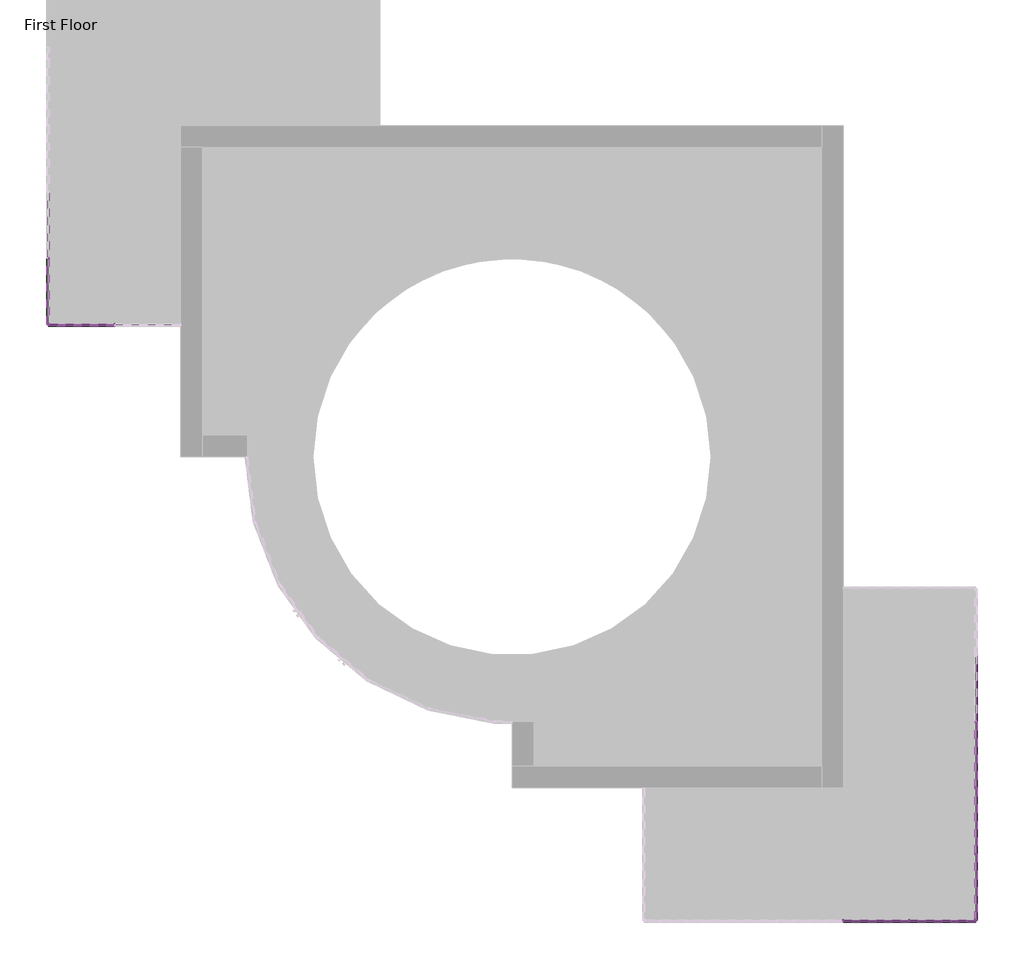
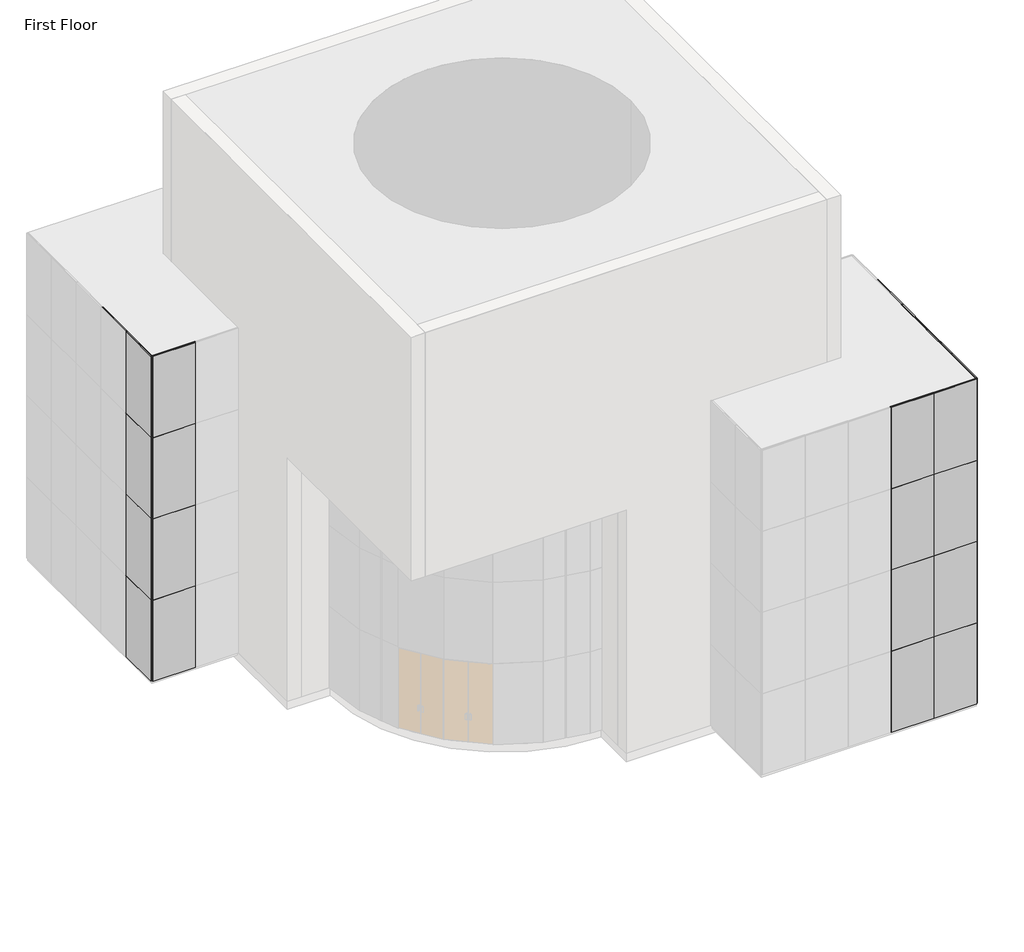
# One storey, part 2 of 4: 84 members, 32 plates.
"""IFC4 building model written with IfcOpenShell, lengths in millimetres."""

import ifcopenshell
import ifcopenshell.guid

model = None  # the IFC model being written
_history = None  # IfcOwnerHistory: only IFC2X3 demands one
_inside = {}  # id of a spatial element -> (the spatial element, [elements in it])
_under = {}  # id of a project, library or spatial element -> (it, [spatial elements below it])
_declared = {}  # id of a project -> (the project, [libraries it declares])
_typed = {}  # id of a type object -> (the type object, [elements of that type])
_made_of = {}  # id of a material, layer set ... -> (it, [elements and type objects made of it])


def new_model(schema):
    """Start an empty IFC model of exactly this schema.

    Asked for "IFC4X3", IfcOpenShell would pick the latest addendum, in which some entities
    have other attributes; the version numbers below select the first issue.
    IFC2X3 requires an IfcOwnerHistory on every rooted entity: one is made here for all.
    """
    global model, _history
    if schema == "IFC4X3":
        model = ifcopenshell.file(schema_version=(4, 3, 0, 0))
    else:
        model = ifcopenshell.file(schema=schema)
    _inside.clear()
    _under.clear()
    _declared.clear()
    _typed.clear()
    _made_of.clear()
    _history = None
    if model.schema == "IFC2X3":
        org = make("IfcOrganization", Name="unknown")
        user = make(
            "IfcPersonAndOrganization",
            ThePerson=make("IfcPerson", FamilyName="unknown"),
            TheOrganization=org,
        )
        app = make(
            "IfcApplication",
            ApplicationDeveloper=org,
            Version="unknown",
            ApplicationFullName="unknown",
            ApplicationIdentifier="unknown",
        )
        _history = make(
            "IfcOwnerHistory",
            OwningUser=user,
            OwningApplication=app,
            ChangeAction="ADDED",
            CreationDate=0,
        )
    return model


def make(cls, **values):
    """One entity of the class cls with the attributes given. An attribute that is None is left unset."""
    return model.create_entity(
        cls, **{name: value for name, value in values.items() if value is not None}
    )


def rooted(cls, **values):
    """An entity with a GlobalId (a new one), such as an element, a storey or a relation."""
    return make(cls, GlobalId=ifcopenshell.guid.new(), OwnerHistory=_history, **values)


def si_unit(unit_type, name, prefix=None):
    """IfcSIUnit, for example si_unit("LENGTHUNIT", "METRE", prefix="MILLI")."""
    return make("IfcSIUnit", UnitType=unit_type, Prefix=prefix, Name=name)


def assignment(units):
    """IfcUnitAssignment: the units of a project."""
    return None if units is None else make("IfcUnitAssignment", Units=units)


def point(xyz):
    """IfcCartesianPoint."""
    return None if xyz is None else make("IfcCartesianPoint", Coordinates=xyz)


def direction(xyz):
    """IfcDirection."""
    return None if xyz is None else make("IfcDirection", DirectionRatios=xyz)


def frame(location, z_axis=None, x_axis=None):
    """IfcAxis2Placement3D, a coordinate frame: its origin and axes. An axis left out is left unset."""
    return make(
        "IfcAxis2Placement3D",
        Location=point(location),
        Axis=direction(z_axis),
        RefDirection=direction(x_axis),
    )


def origin():
    """The frame at (0, 0, 0) with its axes left unset."""
    return frame((0.0, 0.0, 0.0))


def origin_with_axes():
    """The frame at (0, 0, 0) with the z axis (0, 0, 1) and the x axis (1, 0, 0) written out."""
    return frame((0.0, 0.0, 0.0), z_axis=(0.0, 0.0, 1.0), x_axis=(1.0, 0.0, 0.0))


def place(relative_to, where):
    """IfcLocalPlacement: puts the frame where relative to a parent placement (None: the world)."""
    return make(
        "IfcLocalPlacement", PlacementRelTo=relative_to, RelativePlacement=where
    )


def context(
    kind, dimensions, precision=None, world=None, true_north=None, identifier=None
):
    """IfcGeometricRepresentationContext, for example the 3D "Model" context."""
    return make(
        "IfcGeometricRepresentationContext",
        ContextIdentifier=identifier,
        ContextType=kind,
        CoordinateSpaceDimension=dimensions,
        Precision=precision,
        WorldCoordinateSystem=world,
        TrueNorth=true_north,
    )


def project(units=None, contexts=None):
    """IfcProject with its units and contexts."""
    return rooted(
        "IfcProject",
        Name="project",
        RepresentationContexts=contexts,
        UnitsInContext=assignment(units),
    )


def spatial(cls, under=None, at=None, **own):
    """A site, building, storey or space (cls), placed at a placement, below another one or the project."""
    s = rooted(cls, ObjectPlacement=at, **own)
    if under is not None:
        _under.setdefault(under.id(), (under, []))[1].append(s)
    return s


def polyline(points):
    """IfcPolyline through the points."""
    return make("IfcPolyline", Points=[point(p) for p in points])


def outline(outer, holes=None, kind="AREA"):
    """IfcArbitraryClosedProfileDef: a profile drawn as a closed curve; with holes, ...WithVoids."""
    if holes is None:
        return make("IfcArbitraryClosedProfileDef", ProfileType=kind, OuterCurve=outer)
    return make(
        "IfcArbitraryProfileDefWithVoids",
        ProfileType=kind,
        OuterCurve=outer,
        InnerCurves=holes,
    )


def extrude(swept, where, along, depth):
    """IfcExtrudedAreaSolid: the profile swept, set in the frame where, extruded along a direction by depth."""
    return make(
        "IfcExtrudedAreaSolid",
        SweptArea=swept,
        Position=where,
        ExtrudedDirection=direction(along),
        Depth=depth,
    )


def shape(context_of_items, identifier, shape_type, items):
    """IfcShapeRepresentation: the items that make up one representation, for example the "Body"."""
    return make(
        "IfcShapeRepresentation",
        ContextOfItems=context_of_items,
        RepresentationIdentifier=identifier,
        RepresentationType=shape_type,
        Items=items,
    )


def source(mapping_origin, context_of_items, identifier, shape_type, items):
    """IfcRepresentationMap: a shape defined once, which mapped items show again and again."""
    return make(
        "IfcRepresentationMap",
        MappingOrigin=mapping_origin,
        MappedRepresentation=shape(context_of_items, identifier, shape_type, items),
    )


def transform(
    local_origin,
    x_axis=None,
    y_axis=None,
    z_axis=None,
    scale=None,
    scale2=None,
    scale3=None,
    uniform=True,
):
    """IfcCartesianTransformationOperator3D, or its non-uniform kind. x_axis, y_axis, z_axis: its Axis1, 2, 3."""
    if uniform:
        return make(
            "IfcCartesianTransformationOperator3D",
            Axis1=direction(x_axis),
            Axis2=direction(y_axis),
            LocalOrigin=point(local_origin),
            Scale=scale,
            Axis3=direction(z_axis),
        )
    return make(
        "IfcCartesianTransformationOperator3DnonUniform",
        Axis1=direction(x_axis),
        Axis2=direction(y_axis),
        LocalOrigin=point(local_origin),
        Scale=scale,
        Axis3=direction(z_axis),
        Scale2=scale2,
        Scale3=scale3,
    )


def mapped(mapping_source, mapping_target):
    """IfcMappedItem: shows the shape of a source again, moved by a transform."""
    return make(
        "IfcMappedItem", MappingSource=mapping_source, MappingTarget=mapping_target
    )


def made_of(thing, what):
    """Note that an element or type object is made of a material, layer set ...; save() writes the relation."""
    if what is not None:
        _made_of.setdefault(what.id(), (what, []))[1].append(thing)
    return thing


def element(
    cls,
    number,
    at=None,
    inside=None,
    cuts=None,
    type_object=None,
    material=None,
    context=None,
    identifier="Body",
    shape_type=None,
    held_by="IfcProductDefinitionShape",
    body=None,
    shapes=None,
    **own,
):
    """One element of the class cls, such as IfcWall. Its Tag is "e" and its number.

    at: its placement. inside: the storey or other place that contains it. cuts: it is an
    opening in that element (IfcRelVoidsElement). A single representation is given by context,
    identifier, shape_type and body (its items); several are given by shapes. held_by: the class
    of the entity that holds the representations. save() writes the other relations.
    """
    e = rooted(cls, Tag="e%d" % number, ObjectPlacement=at, **own)
    if body is not None:
        shapes = [shape(context, identifier, shape_type, body)]
    if shapes is not None:
        e.Representation = make(held_by, Representations=shapes)
    if inside is not None:
        _inside.setdefault(inside.id(), (inside, []))[1].append(e)
    if cuts is not None:
        rooted(
            "IfcRelVoidsElement", RelatingBuildingElement=cuts, RelatedOpeningElement=e
        )
    if type_object is not None:
        _typed.setdefault(type_object.id(), (type_object, []))[1].append(e)
    return made_of(e, material)


def aggregate(whole, parts):
    """IfcRelAggregates: a whole, such as a stair, and the parts it consists of."""
    return rooted("IfcRelAggregates", RelatingObject=whole, RelatedObjects=parts)


def save(model, path):
    """Write the relations noted so far, then the file.

    IfcRelAggregates (storeys below a building ...), IfcRelContainedInSpatialStructure (elements
    in a storey), IfcRelDefinesByType, IfcRelAssociatesMaterial and IfcRelDeclares: one each for
    every whole, place, type object, material and project.
    """
    for whole, parts in _under.values():
        aggregate(whole, parts)
    for where, things in _inside.values():
        rooted(
            "IfcRelContainedInSpatialStructure",
            RelatedElements=things,
            RelatingStructure=where,
        )
    for kind, things in _typed.values():
        rooted("IfcRelDefinesByType", RelatedObjects=things, RelatingType=kind)
    for what, things in _made_of.values():
        rooted("IfcRelAssociatesMaterial", RelatedObjects=things, RelatingMaterial=what)
    for by, libraries in _declared.values():
        rooted("IfcRelDeclares", RelatingContext=by, RelatedDefinitions=libraries)
    model.write(path)


def member_74941792(model_context):
    return source(origin(), model_context, "Body", "SweptSolid", [
        extrude(outline(polyline([(0.0, 12.7), (0.0, -12.7), (-25.4, -12.7), (-25.4, 12.7), (0.0, 12.7)])), frame((0.0, 0.0, -1485.9), z_axis=(0.0, 0.0, 1.0), x_axis=(1.0, 0.0, 0.0)), (0.0, 0.0, 1.0), 1485.9),
    ])


def member_5e617a80(model_context):
    return source(origin(), model_context, "Body", "SweptSolid", [
        extrude(outline(polyline([(12.7, 12.7), (12.7, -12.7), (-12.7, -12.7), (-12.7, 12.7), (12.7, 12.7)])), frame((0.0, 0.0, -1485.9), z_axis=(0.0, 0.0, 1.0), x_axis=(1.0, 0.0, 0.0)), (0.0, 0.0, 1.0), 1485.9),
    ])


def member_9fd3d903(model_context):
    return source(origin(), model_context, "Body", "SweptSolid", [
        extrude(outline(polyline([(12.7, 12.7), (12.7, -12.7), (-12.7, -12.7), (-12.7, 12.7), (12.7, 12.7)])), frame((0.0, 0.0, -1498.6), z_axis=(0.0, 0.0, 1.0), x_axis=(1.0, 0.0, 0.0)), (0.0, 0.0, 1.0), 1498.6),
    ])


def member_cbdb9076(model_context):
    return source(origin(), model_context, "Body", "SweptSolid", [
        extrude(outline(polyline([(12.7, 12.7), (12.7, -12.7), (-12.7, -12.7), (-12.7, 12.7), (12.7, 12.7)])), frame((0.0, 0.0, -3048.0), z_axis=(0.0, 0.0, 1.0), x_axis=(1.0, 0.0, 0.0)), (0.0, 0.0, 1.0), 3048.0),
    ])


def member_6604d1e0(model_context):
    return source(origin(), model_context, "Body", "SweptSolid", [
        extrude(outline(polyline([(0.0, 12.7), (0.0, -12.7), (-25.4, -12.7), (-25.4, 12.7), (0.0, 12.7)])), frame((0.0, 0.0, -1498.6), z_axis=(0.0, 0.0, 1.0), x_axis=(1.0, 0.0, 0.0)), (0.0, 0.0, 1.0), 1498.6),
    ])


def member_7e523723(model_context):
    return source(origin(), model_context, "Body", "SweptSolid", [
        extrude(outline(polyline([(0.0, 12.7), (0.0, -12.7), (-25.4, -12.7), (-25.4, 12.7), (0.0, 12.7)])), frame((0.0, 0.0, -3048.0), z_axis=(0.0, 0.0, 1.0), x_axis=(1.0, 0.0, 0.0)), (0.0, 0.0, 1.0), 3048.0),
    ])


def system_panel_glazed_9c75bc08(model_context):
    return source(origin(), model_context, "Body", "SweptSolid", [
        extrude(outline(polyline([(762.0, -44.45), (-762.0, -44.45), (-762.0, -19.05), (762.0, -19.05), (762.0, -44.45)])), origin_with_axes(), (0.0, 0.0, 1.0), 3048.0),
    ])


model = new_model("IFC4")

# Units and contexts
model_context = context("Model", 3, world=origin())
ifc_project = project(units=[si_unit("LENGTHUNIT", "METRE", prefix="MILLI")], contexts=[model_context])

# Site, building, storey
site = spatial("IfcSite", under=ifc_project)
building = spatial("IfcBuilding", under=site)
storey = spatial("IfcBuildingStorey", under=building, Name="First Floor", Elevation=0.0)

# Members
placement = place(None, origin())
member_shape = member_74941792(model_context)
element("IfcMember", 1, ObjectType="Rectangular Mullion : 1\" Square", at=placement, inside=storey, context=model_context, shape_type="MappedRepresentation", body=[
    mapped(member_shape, transform((-17553.263284, 9678.4261432, 0.0), x_axis=(0.0, 0.0, -1.0), y_axis=(-1.0, 0.0, 0.0), z_axis=(0.0, 1.0, 0.0))),
])
element("IfcMember", 2, ObjectType="Rectangular Mullion : 1\" Square", at=placement, inside=storey, context=model_context, shape_type="MappedRepresentation", body=[
    mapped(member_shape, transform((-17527.863284, 8167.1261432, 0.0), x_axis=(0.0, 0.0, -1.0), y_axis=(0.0, -1.0, 0.0), z_axis=(-1.0, 0.0, 0.0))),
])
element("IfcMember", 3, ObjectType="Rectangular Mullion : 1\" Square", at=placement, inside=storey, context=model_context, shape_type="MappedRepresentation", body=[
    mapped(member_shape, transform((-16016.563284, 8167.1261432, 0.0), x_axis=(0.0, 0.0, -1.0), y_axis=(0.0, -1.0, 0.0), z_axis=(-1.0, 0.0, 0.0))),
])
element("IfcMember", 4, ObjectType="Rectangular Mullion : 1\" Square", at=placement, inside=storey, context=model_context, shape_type="MappedRepresentation", body=[
    mapped(member_shape, transform((2271.436716, -5548.8738568, 0.0), x_axis=(0.0, 0.0, -1.0), y_axis=(0.0, -1.0, 0.0), z_axis=(-1.0, 0.0, 0.0))),
])
element("IfcMember", 5, ObjectType="Rectangular Mullion : 1\" Square", at=placement, inside=storey, context=model_context, shape_type="MappedRepresentation", body=[
    mapped(member_shape, transform((3782.736716, -5523.4738568, 0.0), x_axis=(0.0, 0.0, -1.0), y_axis=(1.0, 0.0, 0.0), z_axis=(0.0, -1.0, 0.0))),
])
member_2_shape = member_5e617a80(model_context)
element("IfcMember", 6, ObjectType="Rectangular Mullion : 1\" Square", at=placement, inside=storey, context=model_context, shape_type="MappedRepresentation", body=[
    mapped(member_2_shape, transform((-17553.263284, 8192.5261432, 3048.0), x_axis=(0.0, 0.0, 1.0), y_axis=(-1.0, 0.0, 0.0), z_axis=(0.0, -1.0, 0.0))),
])
element("IfcMember", 7, ObjectType="Rectangular Mullion : 1\" Square", at=placement, inside=storey, context=model_context, shape_type="MappedRepresentation", body=[
    mapped(member_2_shape, transform((-17553.263284, 8192.5261432, 6096.0), x_axis=(0.0, 0.0, 1.0), y_axis=(-1.0, 0.0, 0.0), z_axis=(0.0, -1.0, 0.0))),
])
element("IfcMember", 8, ObjectType="Rectangular Mullion : 1\" Square", at=placement, inside=storey, context=model_context, shape_type="MappedRepresentation", body=[
    mapped(member_2_shape, transform((-17553.263284, 8192.5261432, 9144.0), x_axis=(0.0, 0.0, 1.0), y_axis=(-1.0, 0.0, 0.0), z_axis=(0.0, -1.0, 0.0))),
])
element("IfcMember", 9, ObjectType="Rectangular Mullion : 1\" Square", at=placement, inside=storey, context=model_context, shape_type="MappedRepresentation", body=[
    mapped(member_2_shape, transform((-16041.963284, 8167.1261432, 3048.0), x_axis=(0.0, 0.0, 1.0), y_axis=(0.0, -1.0, 0.0), z_axis=(1.0, 0.0, 0.0))),
])
element("IfcMember", 10, ObjectType="Rectangular Mullion : 1\" Square", at=placement, inside=storey, context=model_context, shape_type="MappedRepresentation", body=[
    mapped(member_2_shape, transform((-16041.963284, 8167.1261432, 6096.0), x_axis=(0.0, 0.0, 1.0), y_axis=(0.0, -1.0, 0.0), z_axis=(1.0, 0.0, 0.0))),
])
element("IfcMember", 11, ObjectType="Rectangular Mullion : 1\" Square", at=placement, inside=storey, context=model_context, shape_type="MappedRepresentation", body=[
    mapped(member_2_shape, transform((-16041.963284, 8167.1261432, 9144.0), x_axis=(0.0, 0.0, 1.0), y_axis=(0.0, -1.0, 0.0), z_axis=(1.0, 0.0, 0.0))),
])
element("IfcMember", 12, ObjectType="Rectangular Mullion : 1\" Square", at=placement, inside=storey, context=model_context, shape_type="MappedRepresentation", body=[
    mapped(member_2_shape, transform((3757.336716, -5548.8738568, 9144.0), x_axis=(0.0, 0.0, 1.0), y_axis=(0.0, -1.0, 0.0), z_axis=(1.0, 0.0, 0.0))),
])
element("IfcMember", 13, ObjectType="Rectangular Mullion : 1\" Square", at=placement, inside=storey, context=model_context, shape_type="MappedRepresentation", body=[
    mapped(member_2_shape, transform((3757.336716, -5548.8738568, 3048.0), x_axis=(0.0, 0.0, 1.0), y_axis=(0.0, -1.0, 0.0), z_axis=(1.0, 0.0, 0.0))),
])
element("IfcMember", 14, ObjectType="Rectangular Mullion : 1\" Square", at=placement, inside=storey, context=model_context, shape_type="MappedRepresentation", body=[
    mapped(member_2_shape, transform((3757.336716, -5548.8738568, 6096.0), x_axis=(0.0, 0.0, 1.0), y_axis=(0.0, -1.0, 0.0), z_axis=(1.0, 0.0, 0.0))),
])
element("IfcMember", 15, ObjectType="Rectangular Mullion : 1\" Square", at=placement, inside=storey, context=model_context, shape_type="MappedRepresentation", body=[
    mapped(member_2_shape, transform((3782.736716, -4037.5738568, 3048.0), x_axis=(0.0, 0.0, 1.0), y_axis=(1.0, 0.0, 0.0), z_axis=(0.0, 1.0, 0.0))),
])
element("IfcMember", 16, ObjectType="Rectangular Mullion : 1\" Square", at=placement, inside=storey, context=model_context, shape_type="MappedRepresentation", body=[
    mapped(member_2_shape, transform((3782.736716, -4037.5738568, 6096.0), x_axis=(0.0, 0.0, 1.0), y_axis=(1.0, 0.0, 0.0), z_axis=(0.0, 1.0, 0.0))),
])
element("IfcMember", 17, ObjectType="Rectangular Mullion : 1\" Square", at=placement, inside=storey, context=model_context, shape_type="MappedRepresentation", body=[
    mapped(member_2_shape, transform((3782.736716, -4037.5738568, 9144.0), x_axis=(0.0, 0.0, 1.0), y_axis=(1.0, 0.0, 0.0), z_axis=(0.0, 1.0, 0.0))),
])
member_3_shape = member_9fd3d903(model_context)
element("IfcMember", 18, ObjectType="Rectangular Mullion : 1\" Square", at=placement, inside=storey, context=model_context, shape_type="MappedRepresentation", body=[
    mapped(member_3_shape, transform((-17553.263284, 9703.8261432, 6096.0), x_axis=(0.0, 0.0, 1.0), y_axis=(-1.0, 0.0, 0.0), z_axis=(0.0, -1.0, 0.0))),
])
element("IfcMember", 19, ObjectType="Rectangular Mullion : 1\" Square", at=placement, inside=storey, context=model_context, shape_type="MappedRepresentation", body=[
    mapped(member_3_shape, transform((-17553.263284, 9703.8261432, 9144.0), x_axis=(0.0, 0.0, 1.0), y_axis=(-1.0, 0.0, 0.0), z_axis=(0.0, -1.0, 0.0))),
])
element("IfcMember", 20, ObjectType="Rectangular Mullion : 1\" Square", at=placement, inside=storey, context=model_context, shape_type="MappedRepresentation", body=[
    mapped(member_3_shape, transform((-17553.263284, 9703.8261432, 3048.0), x_axis=(0.0, 0.0, 1.0), y_axis=(-1.0, 0.0, 0.0), z_axis=(0.0, -1.0, 0.0))),
])
element("IfcMember", 21, ObjectType="Rectangular Mullion : 1\" Square", at=placement, inside=storey, context=model_context, shape_type="MappedRepresentation", body=[
    mapped(member_3_shape, transform((2246.036716, -5548.8738568, 9144.0), x_axis=(0.0, 0.0, 1.0), y_axis=(0.0, -1.0, 0.0), z_axis=(1.0, 0.0, 0.0))),
])
element("IfcMember", 22, ObjectType="Rectangular Mullion : 1\" Square", at=placement, inside=storey, context=model_context, shape_type="MappedRepresentation", body=[
    mapped(member_3_shape, transform((2246.036716, -5548.8738568, 3048.0), x_axis=(0.0, 0.0, 1.0), y_axis=(0.0, -1.0, 0.0), z_axis=(1.0, 0.0, 0.0))),
])
element("IfcMember", 23, ObjectType="Rectangular Mullion : 1\" Square", at=placement, inside=storey, context=model_context, shape_type="MappedRepresentation", body=[
    mapped(member_3_shape, transform((2246.036716, -5548.8738568, 6096.0), x_axis=(0.0, 0.0, 1.0), y_axis=(0.0, -1.0, 0.0), z_axis=(1.0, 0.0, 0.0))),
])
element("IfcMember", 24, ObjectType="Rectangular Mullion : 1\" Square", at=placement, inside=storey, context=model_context, shape_type="MappedRepresentation", body=[
    mapped(member_3_shape, transform((3782.736716, -2513.5738568, 3048.0), x_axis=(0.0, 0.0, 1.0), y_axis=(1.0, 0.0, 0.0), z_axis=(0.0, 1.0, 0.0))),
])
element("IfcMember", 25, ObjectType="Rectangular Mullion : 1\" Square", at=placement, inside=storey, context=model_context, shape_type="MappedRepresentation", body=[
    mapped(member_3_shape, transform((3782.736716, -2513.5738568, 9144.0), x_axis=(0.0, 0.0, 1.0), y_axis=(1.0, 0.0, 0.0), z_axis=(0.0, 1.0, 0.0))),
])
element("IfcMember", 26, ObjectType="Rectangular Mullion : 1\" Square", at=placement, inside=storey, context=model_context, shape_type="MappedRepresentation", body=[
    mapped(member_3_shape, transform((3782.736716, -989.5738568, 3048.0), x_axis=(0.0, 0.0, 1.0), y_axis=(1.0, 0.0, 0.0), z_axis=(0.0, 1.0, 0.0))),
])
element("IfcMember", 27, ObjectType="Rectangular Mullion : 1\" Square", at=placement, inside=storey, context=model_context, shape_type="MappedRepresentation", body=[
    mapped(member_3_shape, transform((3782.736716, -2513.5738568, 6096.0), x_axis=(0.0, 0.0, 1.0), y_axis=(1.0, 0.0, 0.0), z_axis=(0.0, 1.0, 0.0))),
])
element("IfcMember", 28, ObjectType="Rectangular Mullion : 1\" Square", at=placement, inside=storey, context=model_context, shape_type="MappedRepresentation", body=[
    mapped(member_3_shape, transform((3782.736716, -989.5738568, 6096.0), x_axis=(0.0, 0.0, 1.0), y_axis=(1.0, 0.0, 0.0), z_axis=(0.0, 1.0, 0.0))),
])
element("IfcMember", 29, ObjectType="Rectangular Mullion : 1\" Square", at=placement, inside=storey, context=model_context, shape_type="MappedRepresentation", body=[
    mapped(member_3_shape, transform((3782.736716, -989.5738568, 9144.0), x_axis=(0.0, 0.0, 1.0), y_axis=(1.0, 0.0, 0.0), z_axis=(0.0, 1.0, 0.0))),
])
member_4_shape = member_cbdb9076(model_context)
element("IfcMember", 30, ObjectType="Rectangular Mullion : 1\" Square", at=placement, inside=storey, context=model_context, shape_type="MappedRepresentation", body=[
    mapped(member_4_shape, transform((-17553.263284, 9691.1261432, 0.0), x_axis=(0.0, -1.0, 0.0), y_axis=(-1.0, 0.0, 0.0), z_axis=(0.0, 0.0, -1.0))),
])
element("IfcMember", 31, ObjectType="Rectangular Mullion : 1\" Square", at=placement, inside=storey, context=model_context, shape_type="MappedRepresentation", body=[
    mapped(member_4_shape, transform((-16029.263284, 8167.1261432, 0.0), x_axis=(1.0, 0.0, 0.0), y_axis=(0.0, -1.0, 0.0), z_axis=(0.0, 0.0, -1.0))),
])
element("IfcMember", 32, ObjectType="Rectangular Mullion : 1\" Square", at=placement, inside=storey, context=model_context, shape_type="MappedRepresentation", body=[
    mapped(member_4_shape, transform((734.736716, -5548.8738568, 0.0), x_axis=(1.0, 0.0, 0.0), y_axis=(0.0, -1.0, 0.0), z_axis=(0.0, 0.0, -1.0))),
])
element("IfcMember", 33, ObjectType="Rectangular Mullion : 1\" Square", at=placement, inside=storey, context=model_context, shape_type="MappedRepresentation", body=[
    mapped(member_4_shape, transform((2258.736716, -5548.8738568, 0.0), x_axis=(1.0, 0.0, 0.0), y_axis=(0.0, -1.0, 0.0), z_axis=(0.0, 0.0, -1.0))),
])
element("IfcMember", 34, ObjectType="Rectangular Mullion : 1\" Square", at=placement, inside=storey, context=model_context, shape_type="MappedRepresentation", body=[
    mapped(member_4_shape, transform((3782.736716, -2500.8738568, 0.0), x_axis=(0.0, 1.0, 0.0), y_axis=(1.0, 0.0, 0.0), z_axis=(0.0, 0.0, -1.0))),
])
element("IfcMember", 35, ObjectType="Rectangular Mullion : 1\" Square", at=placement, inside=storey, context=model_context, shape_type="MappedRepresentation", body=[
    mapped(member_4_shape, transform((3782.736716, -976.8738568, 0.0), x_axis=(0.0, 1.0, 0.0), y_axis=(1.0, 0.0, 0.0), z_axis=(0.0, 0.0, -1.0))),
])
element("IfcMember", 36, ObjectType="Rectangular Mullion : 1\" Square", at=placement, inside=storey, context=model_context, shape_type="MappedRepresentation", body=[
    mapped(member_4_shape, transform((3782.736716, -4024.8738568, 0.0), x_axis=(0.0, 1.0, 0.0), y_axis=(1.0, 0.0, 0.0), z_axis=(0.0, 0.0, -1.0))),
])
member_5_shape = member_6604d1e0(model_context)
element("IfcMember", 37, ObjectType="Rectangular Mullion : 1\" Square", at=placement, inside=storey, context=model_context, shape_type="MappedRepresentation", body=[
    mapped(member_5_shape, transform((-17553.263284, 9703.8261432, 12192.0), x_axis=(0.0, 0.0, 1.0), y_axis=(-1.0, 0.0, 0.0), z_axis=(0.0, -1.0, 0.0))),
])
element("IfcMember", 38, ObjectType="Rectangular Mullion : 1\" Square", at=placement, inside=storey, context=model_context, shape_type="MappedRepresentation", body=[
    mapped(member_5_shape, transform((2246.036716, -5548.8738568, 12192.0), x_axis=(0.0, 0.0, 1.0), y_axis=(0.0, -1.0, 0.0), z_axis=(1.0, 0.0, 0.0))),
])
element("IfcMember", 39, ObjectType="Rectangular Mullion : 1\" Square", at=placement, inside=storey, context=model_context, shape_type="MappedRepresentation", body=[
    mapped(member_5_shape, transform((3782.736716, -2513.5738568, 12192.0), x_axis=(0.0, 0.0, 1.0), y_axis=(1.0, 0.0, 0.0), z_axis=(0.0, 1.0, 0.0))),
])
element("IfcMember", 40, ObjectType="Rectangular Mullion : 1\" Square", at=placement, inside=storey, context=model_context, shape_type="MappedRepresentation", body=[
    mapped(member_5_shape, transform((3782.736716, -989.5738568, 12192.0), x_axis=(0.0, 0.0, 1.0), y_axis=(1.0, 0.0, 0.0), z_axis=(0.0, 1.0, 0.0))),
])
element("IfcMember", 41, ObjectType="Rectangular Mullion : 1\" Square", at=placement, inside=storey, context=model_context, shape_type="MappedRepresentation", body=[
    mapped(member_4_shape, transform((-17553.263284, 9691.1261432, 3048.0), x_axis=(0.0, -1.0, 0.0), y_axis=(-1.0, 0.0, 0.0), z_axis=(0.0, 0.0, -1.0))),
])
element("IfcMember", 42, ObjectType="Rectangular Mullion : 1\" Square", at=placement, inside=storey, context=model_context, shape_type="MappedRepresentation", body=[
    mapped(member_4_shape, transform((-17553.263284, 9691.1261432, 6096.0), x_axis=(0.0, -1.0, 0.0), y_axis=(-1.0, 0.0, 0.0), z_axis=(0.0, 0.0, -1.0))),
])
element("IfcMember", 43, ObjectType="Rectangular Mullion : 1\" Square", at=placement, inside=storey, context=model_context, shape_type="MappedRepresentation", body=[
    mapped(member_4_shape, transform((-16029.263284, 8167.1261432, 3048.0), x_axis=(1.0, 0.0, 0.0), y_axis=(0.0, -1.0, 0.0), z_axis=(0.0, 0.0, -1.0))),
])
element("IfcMember", 44, ObjectType="Rectangular Mullion : 1\" Square", at=placement, inside=storey, context=model_context, shape_type="MappedRepresentation", body=[
    mapped(member_4_shape, transform((-16029.263284, 8167.1261432, 6096.0), x_axis=(1.0, 0.0, 0.0), y_axis=(0.0, -1.0, 0.0), z_axis=(0.0, 0.0, -1.0))),
])
element("IfcMember", 45, ObjectType="Rectangular Mullion : 1\" Square", at=placement, inside=storey, context=model_context, shape_type="MappedRepresentation", body=[
    mapped(member_4_shape, transform((734.736716, -5548.8738568, 3048.0), x_axis=(1.0, 0.0, 0.0), y_axis=(0.0, -1.0, 0.0), z_axis=(0.0, 0.0, -1.0))),
])
element("IfcMember", 46, ObjectType="Rectangular Mullion : 1\" Square", at=placement, inside=storey, context=model_context, shape_type="MappedRepresentation", body=[
    mapped(member_4_shape, transform((734.736716, -5548.8738568, 6096.0), x_axis=(1.0, 0.0, 0.0), y_axis=(0.0, -1.0, 0.0), z_axis=(0.0, 0.0, -1.0))),
])
element("IfcMember", 47, ObjectType="Rectangular Mullion : 1\" Square", at=placement, inside=storey, context=model_context, shape_type="MappedRepresentation", body=[
    mapped(member_4_shape, transform((2258.736716, -5548.8738568, 3048.0), x_axis=(1.0, 0.0, 0.0), y_axis=(0.0, -1.0, 0.0), z_axis=(0.0, 0.0, -1.0))),
])
element("IfcMember", 48, ObjectType="Rectangular Mullion : 1\" Square", at=placement, inside=storey, context=model_context, shape_type="MappedRepresentation", body=[
    mapped(member_4_shape, transform((2258.736716, -5548.8738568, 6096.0), x_axis=(1.0, 0.0, 0.0), y_axis=(0.0, -1.0, 0.0), z_axis=(0.0, 0.0, -1.0))),
])
element("IfcMember", 49, ObjectType="Rectangular Mullion : 1\" Square", at=placement, inside=storey, context=model_context, shape_type="MappedRepresentation", body=[
    mapped(member_4_shape, transform((3782.736716, -2500.8738568, 6096.0), x_axis=(0.0, 1.0, 0.0), y_axis=(1.0, 0.0, 0.0), z_axis=(0.0, 0.0, -1.0))),
])
element("IfcMember", 50, ObjectType="Rectangular Mullion : 1\" Square", at=placement, inside=storey, context=model_context, shape_type="MappedRepresentation", body=[
    mapped(member_4_shape, transform((3782.736716, -976.8738568, 3048.0), x_axis=(0.0, 1.0, 0.0), y_axis=(1.0, 0.0, 0.0), z_axis=(0.0, 0.0, -1.0))),
])
element("IfcMember", 51, ObjectType="Rectangular Mullion : 1\" Square", at=placement, inside=storey, context=model_context, shape_type="MappedRepresentation", body=[
    mapped(member_4_shape, transform((3782.736716, -976.8738568, 6096.0), x_axis=(0.0, 1.0, 0.0), y_axis=(1.0, 0.0, 0.0), z_axis=(0.0, 0.0, -1.0))),
])
element("IfcMember", 52, ObjectType="Rectangular Mullion : 1\" Square", at=placement, inside=storey, context=model_context, shape_type="MappedRepresentation", body=[
    mapped(member_4_shape, transform((3782.736716, -4024.8738568, 3048.0), x_axis=(0.0, 1.0, 0.0), y_axis=(1.0, 0.0, 0.0), z_axis=(0.0, 0.0, -1.0))),
])
element("IfcMember", 53, ObjectType="Rectangular Mullion : 1\" Square", at=placement, inside=storey, context=model_context, shape_type="MappedRepresentation", body=[
    mapped(member_4_shape, transform((3782.736716, -4024.8738568, 6096.0), x_axis=(0.0, 1.0, 0.0), y_axis=(1.0, 0.0, 0.0), z_axis=(0.0, 0.0, -1.0))),
])
element("IfcMember", 54, ObjectType="Rectangular Mullion : 1\" Square", at=placement, inside=storey, context=model_context, shape_type="MappedRepresentation", body=[
    mapped(member_4_shape, transform((3782.736716, -2500.8738568, 3048.0), x_axis=(0.0, 1.0, 0.0), y_axis=(1.0, 0.0, 0.0), z_axis=(0.0, 0.0, -1.0))),
])
element("IfcMember", 55, ObjectType="Rectangular Mullion : 1\" Square", at=placement, inside=storey, context=model_context, shape_type="MappedRepresentation", body=[
    mapped(member_4_shape, transform((-17553.263284, 9691.1261432, 9144.0), x_axis=(0.0, -1.0, 0.0), y_axis=(-1.0, 0.0, 0.0), z_axis=(0.0, 0.0, -1.0))),
])
element("IfcMember", 56, ObjectType="Rectangular Mullion : 1\" Square", at=placement, inside=storey, context=model_context, shape_type="MappedRepresentation", body=[
    mapped(member_4_shape, transform((-16029.263284, 8167.1261432, 9144.0), x_axis=(1.0, 0.0, 0.0), y_axis=(0.0, -1.0, 0.0), z_axis=(0.0, 0.0, -1.0))),
])
element("IfcMember", 57, ObjectType="Rectangular Mullion : 1\" Square", at=placement, inside=storey, context=model_context, shape_type="MappedRepresentation", body=[
    mapped(member_4_shape, transform((734.736716, -5548.8738568, 9144.0), x_axis=(1.0, 0.0, 0.0), y_axis=(0.0, -1.0, 0.0), z_axis=(0.0, 0.0, -1.0))),
])
element("IfcMember", 58, ObjectType="Rectangular Mullion : 1\" Square", at=placement, inside=storey, context=model_context, shape_type="MappedRepresentation", body=[
    mapped(member_4_shape, transform((2258.736716, -5548.8738568, 9144.0), x_axis=(1.0, 0.0, 0.0), y_axis=(0.0, -1.0, 0.0), z_axis=(0.0, 0.0, -1.0))),
])
element("IfcMember", 59, ObjectType="Rectangular Mullion : 1\" Square", at=placement, inside=storey, context=model_context, shape_type="MappedRepresentation", body=[
    mapped(member_4_shape, transform((3782.736716, -2500.8738568, 9144.0), x_axis=(0.0, 1.0, 0.0), y_axis=(1.0, 0.0, 0.0), z_axis=(0.0, 0.0, -1.0))),
])
element("IfcMember", 60, ObjectType="Rectangular Mullion : 1\" Square", at=placement, inside=storey, context=model_context, shape_type="MappedRepresentation", body=[
    mapped(member_4_shape, transform((3782.736716, -976.8738568, 9144.0), x_axis=(0.0, 1.0, 0.0), y_axis=(1.0, 0.0, 0.0), z_axis=(0.0, 0.0, -1.0))),
])
element("IfcMember", 61, ObjectType="Rectangular Mullion : 1\" Square", at=placement, inside=storey, context=model_context, shape_type="MappedRepresentation", body=[
    mapped(member_4_shape, transform((3782.736716, -4024.8738568, 9144.0), x_axis=(0.0, 1.0, 0.0), y_axis=(1.0, 0.0, 0.0), z_axis=(0.0, 0.0, -1.0))),
])
element("IfcMember", 62, ObjectType="Rectangular Mullion : 1\" Square", at=placement, inside=storey, context=model_context, shape_type="MappedRepresentation", body=[
    mapped(member_5_shape, transform((3782.736716, -4012.1738568, 0.0), x_axis=(0.0, 0.0, -1.0), y_axis=(1.0, 0.0, 0.0), z_axis=(0.0, -1.0, 0.0))),
])
element("IfcMember", 63, ObjectType="Rectangular Mullion : 1\" Square", at=placement, inside=storey, context=model_context, shape_type="MappedRepresentation", body=[
    mapped(member_5_shape, transform((3782.736716, -2488.1738568, 0.0), x_axis=(0.0, 0.0, -1.0), y_axis=(1.0, 0.0, 0.0), z_axis=(0.0, -1.0, 0.0))),
])
element("IfcMember", 64, ObjectType="Rectangular Mullion : 1\" Square", at=placement, inside=storey, context=model_context, shape_type="MappedRepresentation", body=[
    mapped(member_5_shape, transform((3782.736716, -964.1738568, 0.0), x_axis=(0.0, 0.0, -1.0), y_axis=(1.0, 0.0, 0.0), z_axis=(0.0, -1.0, 0.0))),
])
element("IfcMember", 65, ObjectType="Rectangular Mullion : 1\" Square", at=placement, inside=storey, context=model_context, shape_type="MappedRepresentation", body=[
    mapped(member_shape, transform((-17553.263284, 8192.5261432, 12192.0), x_axis=(0.0, 0.0, 1.0), y_axis=(-1.0, 0.0, 0.0), z_axis=(0.0, -1.0, 0.0))),
])
element("IfcMember", 66, ObjectType="Rectangular Mullion : 1\" Square", at=placement, inside=storey, context=model_context, shape_type="MappedRepresentation", body=[
    mapped(member_shape, transform((-16041.963284, 8167.1261432, 12192.0), x_axis=(0.0, 0.0, 1.0), y_axis=(0.0, -1.0, 0.0), z_axis=(1.0, 0.0, 0.0))),
])
element("IfcMember", 67, ObjectType="Rectangular Mullion : 1\" Square", at=placement, inside=storey, context=model_context, shape_type="MappedRepresentation", body=[
    mapped(member_shape, transform((3757.336716, -5548.8738568, 12192.0), x_axis=(0.0, 0.0, 1.0), y_axis=(0.0, -1.0, 0.0), z_axis=(1.0, 0.0, 0.0))),
])
element("IfcMember", 68, ObjectType="Rectangular Mullion : 1\" Square", at=placement, inside=storey, context=model_context, shape_type="MappedRepresentation", body=[
    mapped(member_shape, transform((3782.736716, -4037.5738568, 12192.0), x_axis=(0.0, 0.0, 1.0), y_axis=(1.0, 0.0, 0.0), z_axis=(0.0, 1.0, 0.0))),
])
member_6_shape = member_7e523723(model_context)
element("IfcMember", 69, ObjectType="Rectangular Mullion : 1\" Square", at=placement, inside=storey, context=model_context, shape_type="MappedRepresentation", body=[
    mapped(member_6_shape, transform((-17553.263284, 8167.1261432, 0.0), x_axis=(0.0, -1.0, 0.0), y_axis=(-1.0, 0.0, 0.0), z_axis=(0.0, 0.0, -1.0))),
])
element("IfcMember", 70, ObjectType="Rectangular Mullion : 1\" Square", at=placement, inside=storey, context=model_context, shape_type="MappedRepresentation", body=[
    mapped(member_6_shape, transform((3782.736716, -5548.8738568, 0.0), x_axis=(1.0, 0.0, 0.0), y_axis=(0.0, -1.0, 0.0), z_axis=(0.0, 0.0, -1.0))),
])
element("IfcMember", 71, ObjectType="Rectangular Mullion : 1\" Square", at=placement, inside=storey, context=model_context, shape_type="MappedRepresentation", body=[
    mapped(member_6_shape, transform((-17553.263284, 8167.1261432, 3048.0), x_axis=(-1.0, 0.0, 0.0), y_axis=(0.0, -1.0, 0.0), z_axis=(0.0, 0.0, 1.0))),
])
element("IfcMember", 72, ObjectType="Rectangular Mullion : 1\" Square", at=placement, inside=storey, context=model_context, shape_type="MappedRepresentation", body=[
    mapped(member_6_shape, transform((3782.736716, -5548.8738568, 3048.0), x_axis=(0.0, -1.0, 0.0), y_axis=(1.0, 0.0, 0.0), z_axis=(0.0, 0.0, 1.0))),
])
element("IfcMember", 73, ObjectType="Rectangular Mullion : 1\" Square", at=placement, inside=storey, context=model_context, shape_type="MappedRepresentation", body=[
    mapped(member_6_shape, transform((-17553.263284, 8167.1261432, 6096.0), x_axis=(-1.0, 0.0, 0.0), y_axis=(0.0, -1.0, 0.0), z_axis=(0.0, 0.0, 1.0))),
])
element("IfcMember", 74, ObjectType="Rectangular Mullion : 1\" Square", at=placement, inside=storey, context=model_context, shape_type="MappedRepresentation", body=[
    mapped(member_6_shape, transform((-17553.263284, 8167.1261432, 9144.0), x_axis=(-1.0, 0.0, 0.0), y_axis=(0.0, -1.0, 0.0), z_axis=(0.0, 0.0, 1.0))),
])
element("IfcMember", 75, ObjectType="Rectangular Mullion : 1\" Square", at=placement, inside=storey, context=model_context, shape_type="MappedRepresentation", body=[
    mapped(member_6_shape, transform((3782.736716, -5548.8738568, 6096.0), x_axis=(0.0, -1.0, 0.0), y_axis=(1.0, 0.0, 0.0), z_axis=(0.0, 0.0, 1.0))),
])
element("IfcMember", 76, ObjectType="Rectangular Mullion : 1\" Square", at=placement, inside=storey, context=model_context, shape_type="MappedRepresentation", body=[
    mapped(member_6_shape, transform((3782.736716, -5548.8738568, 9144.0), x_axis=(0.0, -1.0, 0.0), y_axis=(1.0, 0.0, 0.0), z_axis=(0.0, 0.0, 1.0))),
])
element("IfcMember", 77, ObjectType="Rectangular Mullion : 1\" Square", at=placement, inside=storey, context=model_context, shape_type="MappedRepresentation", body=[
    mapped(member_6_shape, transform((-17553.263284, 8167.1261432, 3048.0), x_axis=(0.0, -1.0, 0.0), y_axis=(-1.0, 0.0, 0.0), z_axis=(0.0, 0.0, -1.0))),
])
element("IfcMember", 78, ObjectType="Rectangular Mullion : 1\" Square", at=placement, inside=storey, context=model_context, shape_type="MappedRepresentation", body=[
    mapped(member_6_shape, transform((-17553.263284, 8167.1261432, 6096.0), x_axis=(0.0, -1.0, 0.0), y_axis=(-1.0, 0.0, 0.0), z_axis=(0.0, 0.0, -1.0))),
])
element("IfcMember", 79, ObjectType="Rectangular Mullion : 1\" Square", at=placement, inside=storey, context=model_context, shape_type="MappedRepresentation", body=[
    mapped(member_6_shape, transform((3782.736716, -5548.8738568, 3048.0), x_axis=(1.0, 0.0, 0.0), y_axis=(0.0, -1.0, 0.0), z_axis=(0.0, 0.0, -1.0))),
])
element("IfcMember", 80, ObjectType="Rectangular Mullion : 1\" Square", at=placement, inside=storey, context=model_context, shape_type="MappedRepresentation", body=[
    mapped(member_6_shape, transform((3782.736716, -5548.8738568, 6096.0), x_axis=(1.0, 0.0, 0.0), y_axis=(0.0, -1.0, 0.0), z_axis=(0.0, 0.0, -1.0))),
])
element("IfcMember", 81, ObjectType="Rectangular Mullion : 1\" Square", at=placement, inside=storey, context=model_context, shape_type="MappedRepresentation", body=[
    mapped(member_6_shape, transform((-17553.263284, 8167.1261432, 9144.0), x_axis=(0.0, -1.0, 0.0), y_axis=(-1.0, 0.0, 0.0), z_axis=(0.0, 0.0, -1.0))),
])
element("IfcMember", 82, ObjectType="Rectangular Mullion : 1\" Square", at=placement, inside=storey, context=model_context, shape_type="MappedRepresentation", body=[
    mapped(member_6_shape, transform((3782.736716, -5548.8738568, 9144.0), x_axis=(1.0, 0.0, 0.0), y_axis=(0.0, -1.0, 0.0), z_axis=(0.0, 0.0, -1.0))),
])
element("IfcMember", 83, ObjectType="Rectangular Mullion : 1\" Square", at=placement, inside=storey, context=model_context, shape_type="MappedRepresentation", body=[
    mapped(member_6_shape, transform((-17553.263284, 8167.1261432, 12192.0), x_axis=(-1.0, 0.0, 0.0), y_axis=(0.0, -1.0, 0.0), z_axis=(0.0, 0.0, 1.0))),
])
element("IfcMember", 84, ObjectType="Rectangular Mullion : 1\" Square", at=placement, inside=storey, context=model_context, shape_type="MappedRepresentation", body=[
    mapped(member_6_shape, transform((3782.736716, -5548.8738568, 12192.0), x_axis=(0.0, -1.0, 0.0), y_axis=(1.0, 0.0, 0.0), z_axis=(0.0, 0.0, 1.0))),
])

# Plates
system_panel_glazed_shape = system_panel_glazed_9c75bc08(model_context)
element("IfcPlate", 85, ObjectType="System Panel : Glazed", at=placement, inside=storey, context=model_context, shape_type="MappedRepresentation", body=[
    mapped(system_panel_glazed_shape, transform((-17553.263284, 8929.1261432, 0.0), x_axis=(0.0, -1.0, 0.0), y_axis=(1.0, 0.0, 0.0), z_axis=(0.0, 0.0, 1.0))),
])
element("IfcPlate", 86, ObjectType="System Panel : Glazed", at=placement, inside=storey, context=model_context, shape_type="MappedRepresentation", body=[
    mapped(system_panel_glazed_shape, transform((-17553.263284, 8929.1261432, 3048.0), x_axis=(0.0, -1.0, 0.0), y_axis=(1.0, 0.0, 0.0), z_axis=(0.0, 0.0, 1.0))),
])
element("IfcPlate", 87, ObjectType="System Panel : Glazed", at=placement, inside=storey, context=model_context, shape_type="MappedRepresentation", body=[
    mapped(system_panel_glazed_shape, transform((-17553.263284, 8929.1261432, 6096.0), x_axis=(0.0, -1.0, 0.0), y_axis=(1.0, 0.0, 0.0), z_axis=(0.0, 0.0, 1.0))),
])
element("IfcPlate", 88, ObjectType="System Panel : Glazed", at=placement, inside=storey, context=model_context, shape_type="MappedRepresentation", body=[
    mapped(system_panel_glazed_shape, transform((-17553.263284, 8929.1261432, 9144.0), x_axis=(0.0, -1.0, 0.0), y_axis=(1.0, 0.0, 0.0), z_axis=(0.0, 0.0, 1.0))),
])
element("IfcPlate", 89, ObjectType="System Panel : Glazed", at=placement, inside=storey, context=model_context, shape_type="MappedRepresentation", body=[
    mapped(system_panel_glazed_shape, transform((-16791.263284, 8167.1261432, 0.0), x_axis=(1.0, 0.0, 0.0), y_axis=(0.0, 1.0, 0.0), z_axis=(0.0, 0.0, 1.0))),
])
element("IfcPlate", 90, ObjectType="System Panel : Glazed", at=placement, inside=storey, context=model_context, shape_type="MappedRepresentation", body=[
    mapped(system_panel_glazed_shape, transform((-16791.263284, 8167.1261432, 3048.0), x_axis=(1.0, 0.0, 0.0), y_axis=(0.0, 1.0, 0.0), z_axis=(0.0, 0.0, 1.0))),
])
element("IfcPlate", 91, ObjectType="System Panel : Glazed", at=placement, inside=storey, context=model_context, shape_type="MappedRepresentation", body=[
    mapped(system_panel_glazed_shape, transform((-16791.263284, 8167.1261432, 6096.0), x_axis=(1.0, 0.0, 0.0), y_axis=(0.0, 1.0, 0.0), z_axis=(0.0, 0.0, 1.0))),
])
element("IfcPlate", 92, ObjectType="System Panel : Glazed", at=placement, inside=storey, context=model_context, shape_type="MappedRepresentation", body=[
    mapped(system_panel_glazed_shape, transform((-16791.263284, 8167.1261432, 9144.0), x_axis=(1.0, 0.0, 0.0), y_axis=(0.0, 1.0, 0.0), z_axis=(0.0, 0.0, 1.0))),
])
element("IfcPlate", 93, ObjectType="System Panel : Glazed", at=placement, inside=storey, context=model_context, shape_type="MappedRepresentation", body=[
    mapped(system_panel_glazed_shape, transform((1496.736716, -5548.8738568, 0.0), x_axis=(1.0, 0.0, 0.0), y_axis=(0.0, 1.0, 0.0), z_axis=(0.0, 0.0, 1.0))),
])
element("IfcPlate", 94, ObjectType="System Panel : Glazed", at=placement, inside=storey, context=model_context, shape_type="MappedRepresentation", body=[
    mapped(system_panel_glazed_shape, transform((3020.736716, -5548.8738568, 0.0), x_axis=(1.0, 0.0, 0.0), y_axis=(0.0, 1.0, 0.0), z_axis=(0.0, 0.0, 1.0))),
])
element("IfcPlate", 95, ObjectType="System Panel : Glazed", at=placement, inside=storey, context=model_context, shape_type="MappedRepresentation", body=[
    mapped(system_panel_glazed_shape, transform((1496.736716, -5548.8738568, 3048.0), x_axis=(1.0, 0.0, 0.0), y_axis=(0.0, 1.0, 0.0), z_axis=(0.0, 0.0, 1.0))),
])
element("IfcPlate", 96, ObjectType="System Panel : Glazed", at=placement, inside=storey, context=model_context, shape_type="MappedRepresentation", body=[
    mapped(system_panel_glazed_shape, transform((3020.736716, -5548.8738568, 3048.0), x_axis=(1.0, 0.0, 0.0), y_axis=(0.0, 1.0, 0.0), z_axis=(0.0, 0.0, 1.0))),
])
element("IfcPlate", 97, ObjectType="System Panel : Glazed", at=placement, inside=storey, context=model_context, shape_type="MappedRepresentation", body=[
    mapped(system_panel_glazed_shape, transform((1496.736716, -5548.8738568, 6096.0), x_axis=(1.0, 0.0, 0.0), y_axis=(0.0, 1.0, 0.0), z_axis=(0.0, 0.0, 1.0))),
])
element("IfcPlate", 98, ObjectType="System Panel : Glazed", at=placement, inside=storey, context=model_context, shape_type="MappedRepresentation", body=[
    mapped(system_panel_glazed_shape, transform((3020.736716, -5548.8738568, 6096.0), x_axis=(1.0, 0.0, 0.0), y_axis=(0.0, 1.0, 0.0), z_axis=(0.0, 0.0, 1.0))),
])
element("IfcPlate", 99, ObjectType="System Panel : Glazed", at=placement, inside=storey, context=model_context, shape_type="MappedRepresentation", body=[
    mapped(system_panel_glazed_shape, transform((1496.736716, -5548.8738568, 9144.0), x_axis=(1.0, 0.0, 0.0), y_axis=(0.0, 1.0, 0.0), z_axis=(0.0, 0.0, 1.0))),
])
element("IfcPlate", 100, ObjectType="System Panel : Glazed", at=placement, inside=storey, context=model_context, shape_type="MappedRepresentation", body=[
    mapped(system_panel_glazed_shape, transform((3020.736716, -5548.8738568, 9144.0), x_axis=(1.0, 0.0, 0.0), y_axis=(0.0, 1.0, 0.0), z_axis=(0.0, 0.0, 1.0))),
])
element("IfcPlate", 101, ObjectType="System Panel : Glazed", at=placement, inside=storey, context=model_context, shape_type="MappedRepresentation", body=[
    mapped(system_panel_glazed_shape, transform((3782.736716, -4786.8738568, 0.0), x_axis=(0.0, 1.0, 0.0), y_axis=(-1.0, 0.0, 0.0), z_axis=(0.0, 0.0, 1.0))),
])
element("IfcPlate", 102, ObjectType="System Panel : Glazed", at=placement, inside=storey, context=model_context, shape_type="MappedRepresentation", body=[
    mapped(system_panel_glazed_shape, transform((3782.736716, -3262.8738568, 0.0), x_axis=(0.0, 1.0, 0.0), y_axis=(-1.0, 0.0, 0.0), z_axis=(0.0, 0.0, 1.0))),
])
element("IfcPlate", 103, ObjectType="System Panel : Glazed", at=placement, inside=storey, context=model_context, shape_type="MappedRepresentation", body=[
    mapped(system_panel_glazed_shape, transform((3782.736716, -1738.8738568, 0.0), x_axis=(0.0, 1.0, 0.0), y_axis=(-1.0, 0.0, 0.0), z_axis=(0.0, 0.0, 1.0))),
])
element("IfcPlate", 104, ObjectType="System Panel : Glazed", at=placement, inside=storey, context=model_context, shape_type="MappedRepresentation", body=[
    mapped(system_panel_glazed_shape, transform((3782.736716, -214.8738568, 0.0), x_axis=(0.0, 1.0, 0.0), y_axis=(-1.0, 0.0, 0.0), z_axis=(0.0, 0.0, 1.0))),
])
element("IfcPlate", 105, ObjectType="System Panel : Glazed", at=placement, inside=storey, context=model_context, shape_type="MappedRepresentation", body=[
    mapped(system_panel_glazed_shape, transform((3782.736716, -4786.8738568, 3048.0), x_axis=(0.0, 1.0, 0.0), y_axis=(-1.0, 0.0, 0.0), z_axis=(0.0, 0.0, 1.0))),
])
element("IfcPlate", 106, ObjectType="System Panel : Glazed", at=placement, inside=storey, context=model_context, shape_type="MappedRepresentation", body=[
    mapped(system_panel_glazed_shape, transform((3782.736716, -3262.8738568, 3048.0), x_axis=(0.0, 1.0, 0.0), y_axis=(-1.0, 0.0, 0.0), z_axis=(0.0, 0.0, 1.0))),
])
element("IfcPlate", 107, ObjectType="System Panel : Glazed", at=placement, inside=storey, context=model_context, shape_type="MappedRepresentation", body=[
    mapped(system_panel_glazed_shape, transform((3782.736716, -1738.8738568, 3048.0), x_axis=(0.0, 1.0, 0.0), y_axis=(-1.0, 0.0, 0.0), z_axis=(0.0, 0.0, 1.0))),
])
element("IfcPlate", 108, ObjectType="System Panel : Glazed", at=placement, inside=storey, context=model_context, shape_type="MappedRepresentation", body=[
    mapped(system_panel_glazed_shape, transform((3782.736716, -214.8738568, 3048.0), x_axis=(0.0, 1.0, 0.0), y_axis=(-1.0, 0.0, 0.0), z_axis=(0.0, 0.0, 1.0))),
])
element("IfcPlate", 109, ObjectType="System Panel : Glazed", at=placement, inside=storey, context=model_context, shape_type="MappedRepresentation", body=[
    mapped(system_panel_glazed_shape, transform((3782.736716, -4786.8738568, 6096.0), x_axis=(0.0, 1.0, 0.0), y_axis=(-1.0, 0.0, 0.0), z_axis=(0.0, 0.0, 1.0))),
])
element("IfcPlate", 110, ObjectType="System Panel : Glazed", at=placement, inside=storey, context=model_context, shape_type="MappedRepresentation", body=[
    mapped(system_panel_glazed_shape, transform((3782.736716, -3262.8738568, 6096.0), x_axis=(0.0, 1.0, 0.0), y_axis=(-1.0, 0.0, 0.0), z_axis=(0.0, 0.0, 1.0))),
])
element("IfcPlate", 111, ObjectType="System Panel : Glazed", at=placement, inside=storey, context=model_context, shape_type="MappedRepresentation", body=[
    mapped(system_panel_glazed_shape, transform((3782.736716, -1738.8738568, 6096.0), x_axis=(0.0, 1.0, 0.0), y_axis=(-1.0, 0.0, 0.0), z_axis=(0.0, 0.0, 1.0))),
])
element("IfcPlate", 112, ObjectType="System Panel : Glazed", at=placement, inside=storey, context=model_context, shape_type="MappedRepresentation", body=[
    mapped(system_panel_glazed_shape, transform((3782.736716, -214.8738568, 6096.0), x_axis=(0.0, 1.0, 0.0), y_axis=(-1.0, 0.0, 0.0), z_axis=(0.0, 0.0, 1.0))),
])
element("IfcPlate", 113, ObjectType="System Panel : Glazed", at=placement, inside=storey, context=model_context, shape_type="MappedRepresentation", body=[
    mapped(system_panel_glazed_shape, transform((3782.736716, -4786.8738568, 9144.0), x_axis=(0.0, 1.0, 0.0), y_axis=(-1.0, 0.0, 0.0), z_axis=(0.0, 0.0, 1.0))),
])
element("IfcPlate", 114, ObjectType="System Panel : Glazed", at=placement, inside=storey, context=model_context, shape_type="MappedRepresentation", body=[
    mapped(system_panel_glazed_shape, transform((3782.736716, -3262.8738568, 9144.0), x_axis=(0.0, 1.0, 0.0), y_axis=(-1.0, 0.0, 0.0), z_axis=(0.0, 0.0, 1.0))),
])
element("IfcPlate", 115, ObjectType="System Panel : Glazed", at=placement, inside=storey, context=model_context, shape_type="MappedRepresentation", body=[
    mapped(system_panel_glazed_shape, transform((3782.736716, -1738.8738568, 9144.0), x_axis=(0.0, 1.0, 0.0), y_axis=(-1.0, 0.0, 0.0), z_axis=(0.0, 0.0, 1.0))),
])
element("IfcPlate", 116, ObjectType="System Panel : Glazed", at=placement, inside=storey, context=model_context, shape_type="MappedRepresentation", body=[
    mapped(system_panel_glazed_shape, transform((3782.736716, -214.8738568, 9144.0), x_axis=(0.0, 1.0, 0.0), y_axis=(-1.0, 0.0, 0.0), z_axis=(0.0, 0.0, 1.0))),
])

save(model, "model.ifc")
